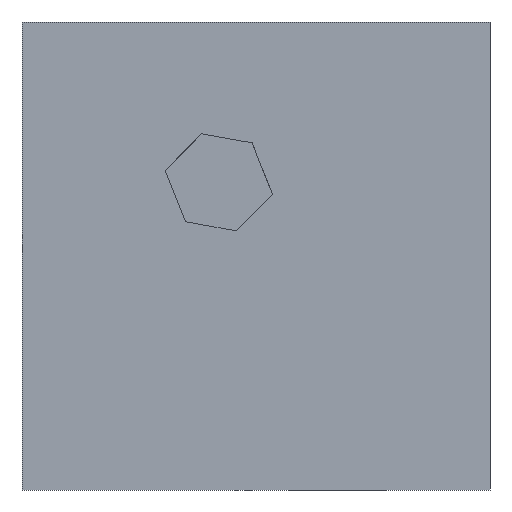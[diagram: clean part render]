
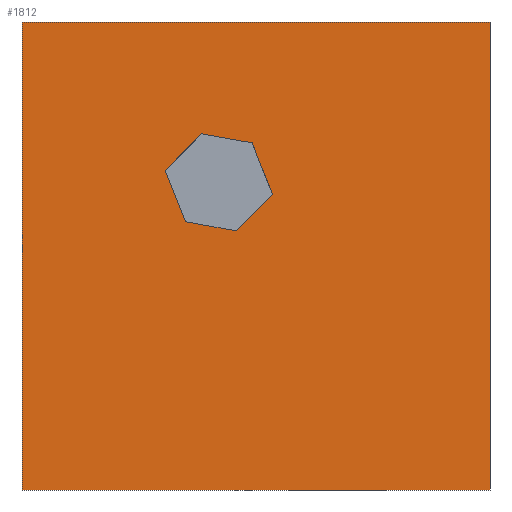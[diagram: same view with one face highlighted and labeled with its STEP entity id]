
A CAD part, left-side view. The second image highlights one B-rep face of the part: STEP entity #1812.
In plain terms, the highlighted planar face has unit normal (-1, 0, 0).
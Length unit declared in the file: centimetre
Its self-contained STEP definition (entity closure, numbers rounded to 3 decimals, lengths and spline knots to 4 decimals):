
#3 = VERTEX_POINT ( 'NONE', #99 ) ;
#47 = VECTOR ( 'NONE', #1567, 100. ) ;
#57 = CARTESIAN_POINT ( 'NONE',  ( 0., 616.7185, 761.2449 ) ) ;
#64 = VERTEX_POINT ( 'NONE', #1758 ) ;
#94 = CARTESIAN_POINT ( 'NONE',  ( 0., 694.4222, 683.5413 ) ) ;
#98 = DIRECTION ( 'NONE',  ( 0., 0., -1. ) ) ;
#99 = CARTESIAN_POINT ( 'NONE',  ( 0., 0., 1000. ) ) ;
#128 = CARTESIAN_POINT ( 'NONE',  ( 0., 508.2011, 741.6568 ) ) ;
#243 = EDGE_CURVE ( 'NONE', #64, #1165, #1810, .T. ) ;
#244 = EDGE_CURVE ( 'NONE', #438, #688, #550, .T. ) ;
#266 = VECTOR ( 'NONE', #1939, 100. ) ;
#304 = EDGE_CURVE ( 'NONE', #1320, #1024, #1157, .T. ) ;
#341 = ORIENTED_EDGE ( 'NONE', *, *, #244, .F. ) ;
#383 = EDGE_CURVE ( 'NONE', #1024, #438, #1536, .T. ) ;
#434 = CARTESIAN_POINT ( 'NONE',  ( 0., 1000., 0. ) ) ;
#438 = VERTEX_POINT ( 'NONE', #128 ) ;
#446 = DIRECTION ( 'NONE',  ( 1., 0., 0. ) ) ;
#481 = LINE ( 'NONE', #1857, #1957 ) ;
#495 = CARTESIAN_POINT ( 'NONE',  ( 0., 694.4222, 683.5413 ) ) ;
#550 = LINE ( 'NONE', #1018, #266 ) ;
#565 = DIRECTION ( 'NONE',  ( 0., -0.369, -0.929 ) ) ;
#609 = EDGE_CURVE ( 'NONE', #1165, #1300, #1424, .T. ) ;
#611 = FACE_OUTER_BOUND ( 'NONE', #1043, .T. ) ;
#612 = EDGE_LOOP ( 'NONE', ( #1779, #341, #974, #1881, #1114, #1167 ) ) ;
#616 = CARTESIAN_POINT ( 'NONE',  ( 0., 542.1288, 553.6991 ) ) ;
#657 = VECTOR ( 'NONE', #1443, 100. ) ;
#688 = VERTEX_POINT ( 'NONE', #1788 ) ;
#697 = DIRECTION ( 'NONE',  ( 0., 0., -1. ) ) ;
#713 = CARTESIAN_POINT ( 'NONE',  ( 0., 0., 1000. ) ) ;
#725 = LINE ( 'NONE', #713, #1046 ) ;
#726 = CARTESIAN_POINT ( 'NONE',  ( 0., 1000., 1000. ) ) ;
#758 = DIRECTION ( 'NONE',  ( 0., -1., 0. ) ) ;
#820 = VECTOR ( 'NONE', #98, 100. ) ;
#844 = AXIS2_PLACEMENT_3D ( 'NONE', #1416, #446, #1234 ) ;
#864 = LINE ( 'NONE', #94, #873 ) ;
#873 = VECTOR ( 'NONE', #565, 100. ) ;
#906 = CARTESIAN_POINT ( 'NONE',  ( 0., 0., 0. ) ) ;
#922 = PLANE ( 'NONE',  #844 ) ;
#923 = ORIENTED_EDGE ( 'NONE', *, *, #243, .T. ) ;
#967 = VERTEX_POINT ( 'NONE', #495 ) ;
#974 = ORIENTED_EDGE ( 'NONE', *, *, #383, .F. ) ;
#1018 = CARTESIAN_POINT ( 'NONE',  ( 0., 508.2011, 741.6568 ) ) ;
#1024 = VERTEX_POINT ( 'NONE', #1603 ) ;
#1039 = LINE ( 'NONE', #1380, #1927 ) ;
#1043 = EDGE_LOOP ( 'NONE', ( #1859, #1685, #1590, #923 ) ) ;
#1046 = VECTOR ( 'NONE', #697, 100. ) ;
#1114 = ORIENTED_EDGE ( 'NONE', *, *, #1747, .F. ) ;
#1134 = EDGE_CURVE ( 'NONE', #3, #1300, #725, .T. ) ;
#1157 = LINE ( 'NONE', #1502, #1181 ) ;
#1165 = VERTEX_POINT ( 'NONE', #434 ) ;
#1167 = ORIENTED_EDGE ( 'NONE', *, *, #1524, .F. ) ;
#1181 = VECTOR ( 'NONE', #1777, 100. ) ;
#1193 = VERTEX_POINT ( 'NONE', #1331 ) ;
#1234 = DIRECTION ( 'NONE',  ( 0., 0., -1. ) ) ;
#1258 = EDGE_CURVE ( 'NONE', #64, #3, #1039, .T. ) ;
#1300 = VERTEX_POINT ( 'NONE', #906 ) ;
#1301 = CARTESIAN_POINT ( 'NONE',  ( 0., 1000., 0. ) ) ;
#1320 = VERTEX_POINT ( 'NONE', #616 ) ;
#1331 = CARTESIAN_POINT ( 'NONE',  ( 0., 650.6462, 573.2873 ) ) ;
#1371 = VECTOR ( 'NONE', #1549, 100. ) ;
#1380 = CARTESIAN_POINT ( 'NONE',  ( 0., 1000., 1000. ) ) ;
#1416 = CARTESIAN_POINT ( 'NONE',  ( 0., 1000., 1000. ) ) ;
#1420 = EDGE_CURVE ( 'NONE', #688, #967, #1584, .T. ) ;
#1424 = LINE ( 'NONE', #1301, #47 ) ;
#1443 = DIRECTION ( 'NONE',  ( 0., 0.707, -0.707 ) ) ;
#1502 = CARTESIAN_POINT ( 'NONE',  ( 0., 542.1288, 553.6991 ) ) ;
#1524 = EDGE_CURVE ( 'NONE', #967, #1193, #864, .T. ) ;
#1536 = LINE ( 'NONE', #1846, #1371 ) ;
#1549 = DIRECTION ( 'NONE',  ( 0., 0.369, 0.929 ) ) ;
#1567 = DIRECTION ( 'NONE',  ( 0., -1., 0. ) ) ;
#1584 = LINE ( 'NONE', #57, #657 ) ;
#1590 = ORIENTED_EDGE ( 'NONE', *, *, #1258, .F. ) ;
#1603 = CARTESIAN_POINT ( 'NONE',  ( 0., 464.4252, 631.4028 ) ) ;
#1685 = ORIENTED_EDGE ( 'NONE', *, *, #1134, .F. ) ;
#1694 = DIRECTION ( 'NONE',  ( 0., -0.984, -0.178 ) ) ;
#1726 = FACE_BOUND ( 'NONE', #612, .T. ) ;
#1747 = EDGE_CURVE ( 'NONE', #1193, #1320, #481, .T. ) ;
#1758 = CARTESIAN_POINT ( 'NONE',  ( 0., 1000., 1000. ) ) ;
#1777 = DIRECTION ( 'NONE',  ( 0., -0.707, 0.707 ) ) ;
#1779 = ORIENTED_EDGE ( 'NONE', *, *, #1420, .F. ) ;
#1788 = CARTESIAN_POINT ( 'NONE',  ( 0., 616.7185, 761.2449 ) ) ;
#1810 = LINE ( 'NONE', #726, #820 ) ;
#1812 = ADVANCED_FACE ( 'NONE', ( #1726, #611 ), #922, .F. ) ;
#1846 = CARTESIAN_POINT ( 'NONE',  ( 0., 464.4252, 631.4028 ) ) ;
#1857 = CARTESIAN_POINT ( 'NONE',  ( 0., 650.6462, 573.2873 ) ) ;
#1859 = ORIENTED_EDGE ( 'NONE', *, *, #609, .T. ) ;
#1881 = ORIENTED_EDGE ( 'NONE', *, *, #304, .F. ) ;
#1927 = VECTOR ( 'NONE', #758, 100. ) ;
#1939 = DIRECTION ( 'NONE',  ( 0., 0.984, 0.178 ) ) ;
#1957 = VECTOR ( 'NONE', #1694, 100. ) ;
